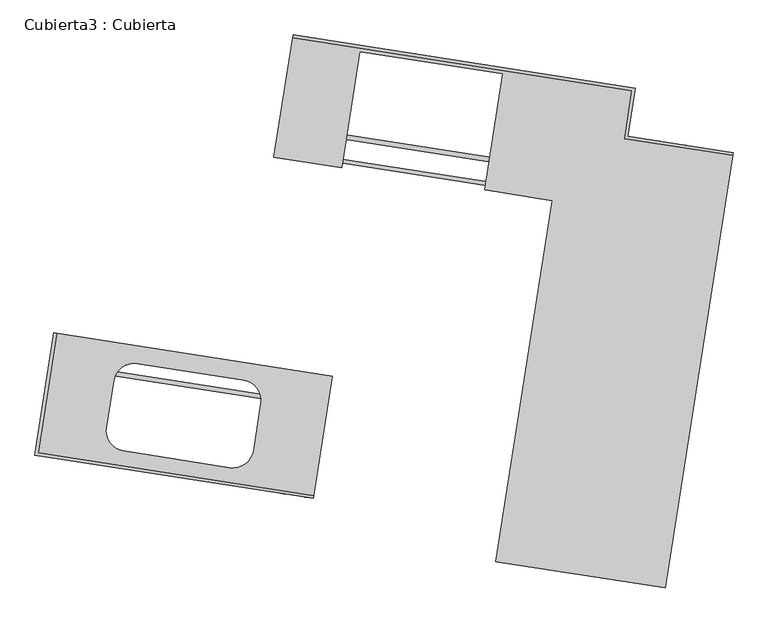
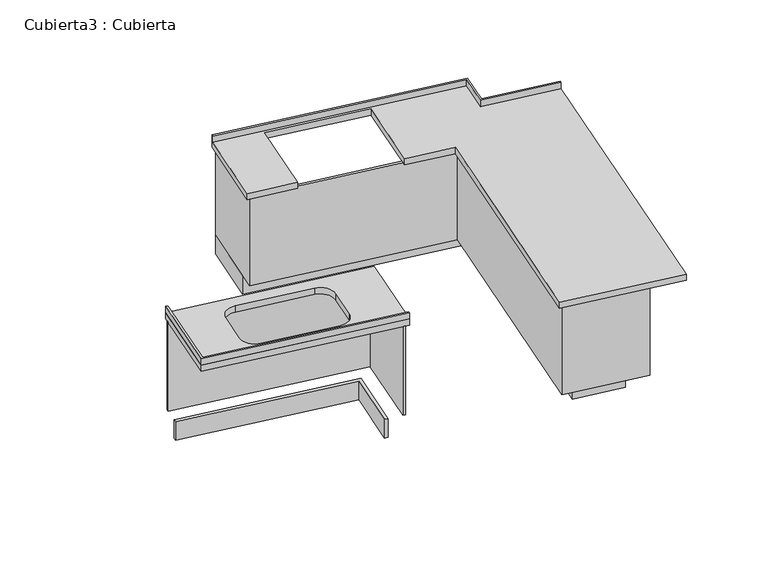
"""IFC4 building model written with IfcOpenShell, lengths in millimetres: furniture geometry, Cubierta3 : Cubierta."""

from ifc_helpers import new_model, si_unit, frame, origin, place, context, project, spatial, polyline, circle_curve, outline, extrude, faceted_brep, source, transform, mapped, element, save
from ifc_brep_helpers import plane_surface, revolved_surface, advanced_brep


def cubierta3_cubierta_532f47a3(model_context):
    return source(origin(), model_context, "Body", "SolidModel", [
        extrude(outline(polyline([(-32352.5758891, -59997.3327497), (-32337.7548495, -59999.6428979), (-32435.5511229, -60627.0669085), (-30988.029587, -60852.6913816), (-30990.3397351, -60867.5124213), (-32452.6823107, -60639.5777999), (-32352.5758891, -59997.3327497)])), frame((0.0, 0.0, 4120.0), z_axis=(0.0, 0.0, 1.0), x_axis=(1.0, 0.0, 0.0)), (0.0, 0.0, 1.0), 50.0),
        extrude(outline(polyline([(-32375.6773711, -60145.543146), (-31061.5451779, -60350.3762876), (-31138.5501175, -60844.4109415), (-31163.2518502, -60840.5606945), (-31090.0971575, -60371.2277733), (-32379.5276181, -60170.2448787), (-32375.6773711, -60145.543146)])), frame((0.0, 0.0, 3200.0), z_axis=(0.0, 0.0, 1.0), x_axis=(1.0, 0.0, 0.0)), (0.0, 0.0, 1.0), 150.0),
        extrude(outline(polyline([(-32356.4261362, -60022.0344826), (-30918.7852795, -60246.1188591), (-31015.041454, -60863.6621764), (-31034.8028402, -60860.5819788), (-30941.6268632, -60262.8000476), (-32359.5063337, -60041.7958687), (-32356.4261362, -60022.0344826)])), frame((0.0, 0.0, 3350.0), z_axis=(0.0, 0.0, 1.0), x_axis=(1.0, 0.0, 0.0)), (0.0, 0.0, 1.0), 720.0),
        extrude(outline(polyline([(-29488.1543355, -61132.0195588), (-29858.680322, -61074.2658546), (-29562.9813552, -59177.1727934), (-31148.8325985, -58929.9869365), (-31071.8276589, -58435.9522826), (-31052.0662727, -58439.0324802), (-31125.2209654, -58908.3654014), (-29534.4293756, -59156.3213077), (-29830.1283424, -61053.4143689), (-29509.0058212, -61103.4675791), (-29179.4246766, -58988.9992405), (-29154.7229439, -58992.8494875), (-29488.1543355, -61132.0195588)])), frame((0.0, 0.0, 3200.0), z_axis=(0.0, 0.0, 1.0), x_axis=(1.0, 0.0, 0.0)), (0.0, 0.0, 1.0), 150.0),
        extrude(outline(polyline([(-30001.4402205, -61178.5232832), (-29705.7412536, -59281.430222), (-31168.0838334, -59053.4956), (-31071.8276589, -58435.9522826), (-31052.0662727, -58439.0324802), (-31145.2422497, -59036.8144114), (-29682.8996699, -59264.7490334), (-29978.5986367, -61161.8420946), (-29400.5780955, -61251.9378734), (-29050.9756666, -59009.0205248), (-29031.2142804, -59012.1007224), (-29383.8969069, -61274.7794572), (-30001.4402205, -61178.5232832)])), frame((0.0, 0.0, 3350.0), z_axis=(0.0, 0.0, 1.0), x_axis=(1.0, 0.0, 0.0)), (0.0, 0.0, 1.0), 720.0),
        faceted_brep([(-31196.6358131, -59074.3470857, 4120.0), (-30840.9308602, -59129.7906426, 4120.0), (-30745.9475854, -58520.4137698, 4120.0), (-29995.0149114, -58637.4612781, 4120.0), (-30089.9981863, -59246.8381508, 4120.0), (-29734.2932333, -59302.2817077, 4120.0), (-30029.9921986, -61199.3747588, 4120.0), (-29140.7298255, -61337.9836496, 4120.0), (-28786.5071017, -59065.4242319, 4120.0), (-29354.6469652, -58976.8685495, 4120.0), (-29315.3744506, -58724.9109056, 4120.0), (-31098.8395398, -58446.9230752, 4120.0), (-29298.2432627, -58712.4000141, 4070.0), (-29337.5157774, -58964.357658, 4070.0), (-28784.1969535, -59050.6031923, 4070.0), (-29140.7298255, -61337.9836496, 4070.0), (-30029.9921986, -61199.3747588, 4070.0), (-29734.2932333, -59302.2817077, 4070.0), (-30089.9981863, -59246.8381508, 4070.0), (-29995.0149114, -58637.4612781, 4070.0), (-30745.9475854, -58520.4137698, 4070.0), (-30840.9308602, -59129.7906426, 4070.0), (-31196.6358131, -59074.3470857, 4070.0), (-31096.5293916, -58432.1020356, 4070.0), (-28784.1969535, -59050.6031923, 4170.0), (-28786.5071017, -59065.4242319, 4170.0), (-29315.3744506, -58724.9109056, 4170.0), (-31098.8395398, -58446.9230752, 4170.0), (-31096.5293916, -58432.1020356, 4170.0), (-29298.2432628, -58712.4000141, 4170.0), (-29337.5157774, -58964.357658, 4170.0), (-29354.6469652, -58976.8685495, 4170.0)], [[[0, 1, 2, 3, 4, 5, 6, 7, 8, 9, 10, 11]], [[12, 13, 14, 15, 16, 17, 18, 19, 20, 21, 22, 23]], [[24, 25, 8, 7, 15, 14]], [[10, 26, 27, 11]], [[12, 23, 28, 29]], [[11, 27, 28, 23, 22, 0]], [[5, 4, 18, 17]], [[6, 5, 17, 16]], [[7, 6, 16, 15]], [[1, 0, 22, 21]], [[2, 1, 21, 20]], [[3, 2, 20, 19]], [[4, 3, 19, 18]], [[25, 24, 30, 29, 28, 27, 26, 31]], [[8, 25, 31, 9]], [[24, 14, 13, 30]], [[26, 10, 9, 31]], [[12, 29, 30, 13]]]),
        advanced_brep(
        [(-30890.2332998, -60225.2673733, 4120.0), (-32352.5758891, -59997.3327497, 4120.0), (-32452.6823069, -60639.5777753, 4120.0), (-30990.3397175, -60867.5123989, 4120.0), (-32075.5620353, -60495.9444006, 4120.0), (-32037.0595655, -60248.9270736, 4120.0), (-31914.8570925, -60159.6827148, 4120.0), (-31356.5979336, -60246.6982966, 4120.0), (-31267.3535747, -60368.9007696, 4120.0), (-31305.8560445, -60615.9180966, 4120.0), (-31428.0585176, -60705.1624554, 4120.0), (-31986.3176765, -60618.1468736, 4120.0), (-30890.2332998, -60225.2673733, 4070.0), (-30990.3397175, -60867.5123989, 4070.0), (-32452.6823069, -60639.5777753, 4070.0), (-32352.5758891, -59997.3327497, 4070.0), (-32075.5620353, -60495.9444006, 4070.0), (-31986.3176765, -60618.1468736, 4070.0), (-31428.0585176, -60705.1624554, 4070.0), (-31305.8560445, -60615.9180966, 4070.0), (-31267.3535747, -60368.9007696, 4070.0), (-31356.5979336, -60246.6982966, 4070.0), (-31914.8570925, -60159.6827148, 4070.0), (-32037.0595655, -60248.9270736, 4070.0)],
        [
            (0, 1),
            (1, 2),
            (2, 3),
            (3, 0),
            (4, 5),
            (5, 6, circle_curve(frame((-31931.3361496, -60265.4061307, 4120.0), z_axis=(0.0, 0.0, -1.0), x_axis=(0.9880693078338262, -0.15400987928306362, 0.0)), 107.0)),
            (6, 7),
            (7, 8, circle_curve(frame((-31373.0769906, -60352.4217125, 4120.0), z_axis=(0.0, 0.0, -1.0), x_axis=(0.9880693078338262, -0.15400987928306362, 0.0)), 107.0)),
            (8, 9),
            (9, 10, circle_curve(frame((-31411.5794605, -60599.4390395, 4120.0), z_axis=(0.0, 0.0, -1.0), x_axis=(0.9880693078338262, -0.15400987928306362, 0.0)), 107.0)),
            (10, 11),
            (11, 4, circle_curve(frame((-31969.8386194, -60512.4234577, 4120.0), z_axis=(0.0, 0.0, -1.0), x_axis=(0.9880693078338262, -0.15400987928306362, 0.0)), 107.0)),
            (12, 13),
            (13, 14),
            (14, 15),
            (15, 12),
            (16, 17, circle_curve(frame((-31969.8386194, -60512.4234577, 4070.0), z_axis=(0.0, 0.0, 1.0), x_axis=(0.9880693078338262, -0.15400987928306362, 0.0)), 107.0)),
            (17, 18),
            (18, 19, circle_curve(frame((-31411.5794605, -60599.4390395, 4070.0), z_axis=(0.0, 0.0, 1.0), x_axis=(0.9880693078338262, -0.15400987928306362, 0.0)), 107.0)),
            (19, 20),
            (20, 21, circle_curve(frame((-31373.0769906, -60352.4217125, 4070.0), z_axis=(0.0, 0.0, 1.0), x_axis=(0.9880693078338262, -0.15400987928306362, 0.0)), 107.0)),
            (21, 22),
            (22, 23, circle_curve(frame((-31931.3361496, -60265.4061307, 4070.0), z_axis=(0.0, 0.0, 1.0), x_axis=(0.9880693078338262, -0.15400987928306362, 0.0)), 107.0)),
            (23, 16),
            (4, 16),
            (23, 5),
            (22, 6),
            (21, 7),
            (20, 8),
            (19, 9),
            (18, 10),
            (17, 11),
            (0, 12),
            (15, 1),
            (14, 2),
            (13, 3),
        ],
        [
            plane_surface(frame((-31002.8178957, -58446.7088005, 4120.0), z_axis=(0.0, 0.0, 1.0), x_axis=(-0.9880693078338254, 0.15400987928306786, 0.0))),
            plane_surface(frame((-31002.8178957, -58446.7088005, 4070.0), z_axis=(0.0, 0.0, -1.0), x_axis=(0.9880693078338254, -0.15400987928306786, 0.0))),
            plane_surface(frame((-32075.5620353, -60495.9444006, 4120.0), z_axis=(0.9880693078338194, -0.1540098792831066, 0.0), x_axis=(0.0, 0.0, -1.0))),
            revolved_surface(polyline([(-31825.61273366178, -60281.885187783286, 4070.0000000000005), (-31825.61273366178, -60281.885187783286, 4120.0)]), (-31931.3361496, -60265.4061307, 3220.0), (0.0, 0.0, -1.0000000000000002)),
            plane_surface(frame((-31914.8570925, -60159.6827148, 4120.0), z_axis=(-0.15400987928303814, -0.9880693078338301, 0.0), x_axis=(0.0, 0.0, -1.0))),
            revolved_surface(polyline([(-31267.353574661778, -60368.900769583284, 4070.0000000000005), (-31267.353574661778, -60368.900769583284, 4120.0)]), (-31373.0769906, -60352.4217125, 3220.0), (0.0, 0.0, -1.0000000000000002)),
            plane_surface(frame((-31267.3535747, -60368.9007696, 4120.0), z_axis=(-0.9880693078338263, 0.15400987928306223, 0.0), x_axis=(0.0, 0.0, -1.0))),
            revolved_surface(polyline([(-31305.85604456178, -60615.918096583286, 4070.0000000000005), (-31305.85604456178, -60615.918096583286, 4120.0)]), (-31411.5794605, -60599.4390395, 3220.0), (0.0, 0.0, -1.0000000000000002)),
            plane_surface(frame((-31428.0585176, -60705.1624554, 4120.0), z_axis=(0.1540098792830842, 0.9880693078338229, 0.0), x_axis=(0.0, 0.0, -1.0))),
            revolved_surface(polyline([(-31864.11520346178, -60528.90251478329, 4070.0000000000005), (-31864.11520346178, -60528.90251478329, 4120.0)]), (-31969.8386194, -60512.4234577, 3220.0), (0.0, 0.0, -1.0000000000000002)),
            plane_surface(frame((-30890.2332998, -60225.2673733, 4120.0), z_axis=(0.1540098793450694, 0.9880693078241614, 0.0), x_axis=(0.0, 0.0, -1.0))),
            plane_surface(frame((-32352.5758891, -59997.3327497, 4120.0), z_axis=(-0.988069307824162, 0.1540098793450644, 0.0), x_axis=(0.0, 0.0, -1.0))),
            plane_surface(frame((-32452.6823069, -60639.5777753, 4120.0), z_axis=(-0.15400987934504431, -0.9880693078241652, 0.0), x_axis=(0.0, 0.0, -1.0))),
            plane_surface(frame((-30990.3397175, -60867.5123989, 4120.0), z_axis=(0.9880693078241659, -0.15400987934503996, 0.0), x_axis=(0.0, 0.0, -1.0))),
        ],
        [
            (0, [[1, 2, 3, 4], [5, 6, 7, 8, 9, 10, 11, 12]]),
            (1, [[13, 14, 15, 16], [17, 18, 19, 20, 21, 22, 23, 24]]),
            (2, [[-5, 25, -24, 26]]),
            (3, [[-6, -26, -23, 27]]),
            (4, [[-7, -27, -22, 28]]),
            (5, [[-8, -28, -21, 29]]),
            (6, [[-9, -29, -20, 30]]),
            (7, [[-10, -30, -19, 31]]),
            (8, [[-11, -31, -18, 32]]),
            (9, [[-12, -32, -17, -25]]),
            (10, [[-1, 33, -16, 34]]),
            (11, [[-2, -34, -15, 35]]),
            (12, [[-3, -35, -14, 36]]),
            (13, [[-4, -36, -13, -33]]),
        ],
    ),
    ])


if __name__ == "__main__":
    model = new_model("IFC4")
    model_context = context("Model", 3, world=origin())
    ifc_project = project(units=[si_unit("LENGTHUNIT", "METRE", prefix="MILLI")], contexts=[model_context])
    site = spatial("IfcSite", under=ifc_project)
    building = spatial("IfcBuilding", under=site)
    placement = place(None, origin())
    cubierta3_cubierta_shape = cubierta3_cubierta_532f47a3(model_context)
    element("IfcFurniture", 1, ObjectType="Cubierta3 : Cubierta", at=placement, inside=building, context=model_context, shape_type="MappedRepresentation", body=[
        mapped(cubierta3_cubierta_shape, transform((0.0, 0.0, 0.0), x_axis=(1.0, 0.0, 0.0), y_axis=(0.0, 1.0, 0.0), z_axis=(0.0, 0.0, 1.0))),
    ])
    save(model, "model.ifc")
